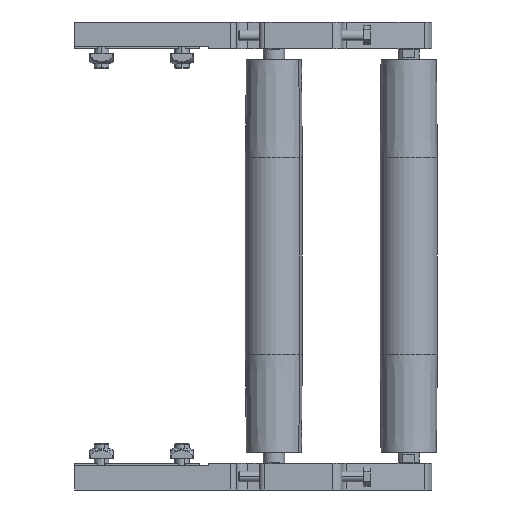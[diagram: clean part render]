
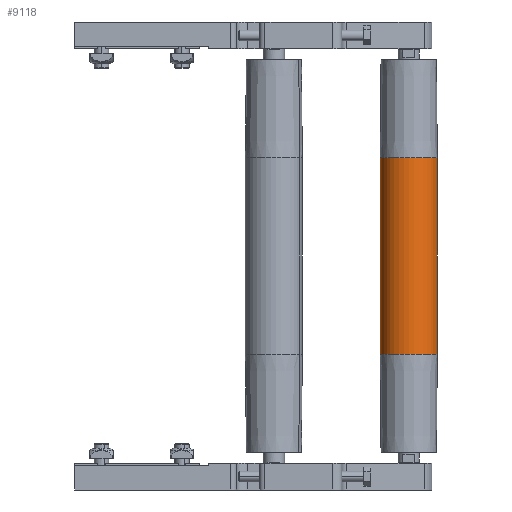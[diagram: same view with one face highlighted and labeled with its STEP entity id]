
A CAD part, front view. The second image highlights one B-rep face of the part: STEP entity #9118.
In plain terms, the highlighted cylindrical face has radius 16 mm (diameter 32 mm), a partial arc.
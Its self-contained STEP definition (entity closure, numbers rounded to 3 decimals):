
#232 = DIRECTION ( 'NONE',  ( 0., 0., -1. ) ) ;
#240 = EDGE_CURVE ( 'NONE', #10572, #1767, #2154, .T. ) ;
#694 = CYLINDRICAL_SURFACE ( 'NONE', #4300, 16. ) ;
#746 = CARTESIAN_POINT ( 'NONE',  ( -16., 0., 55. ) ) ;
#1044 = CIRCLE ( 'NONE', #4980, 16. ) ;
#1370 = ORIENTED_EDGE ( 'NONE', *, *, #5690, .F. ) ;
#1767 = VERTEX_POINT ( 'NONE', #6927 ) ;
#2154 = CIRCLE ( 'NONE', #6162, 16. ) ;
#3234 = DIRECTION ( 'NONE',  ( 0., 0., 1. ) ) ;
#4139 = CARTESIAN_POINT ( 'NONE',  ( -16., 0., -55. ) ) ;
#4300 = AXIS2_PLACEMENT_3D ( 'NONE', #6183, #15347, #16645 ) ;
#4980 = AXIS2_PLACEMENT_3D ( 'NONE', #16402, #12423, #12530 ) ;
#4985 = ORIENTED_EDGE ( 'NONE', *, *, #14333, .T. ) ;
#5690 = EDGE_CURVE ( 'NONE', #1767, #6594, #16507, .T. ) ;
#6162 = AXIS2_PLACEMENT_3D ( 'NONE', #11069, #3234, #12383 ) ;
#6183 = CARTESIAN_POINT ( 'NONE',  ( 0., 0., 110. ) ) ;
#6594 = VERTEX_POINT ( 'NONE', #7109 ) ;
#6927 = CARTESIAN_POINT ( 'NONE',  ( 16., 0., 55. ) ) ;
#7109 = CARTESIAN_POINT ( 'NONE',  ( 16., 0., -55. ) ) ;
#7647 = VECTOR ( 'NONE', #9947, 1000. ) ;
#8010 = CARTESIAN_POINT ( 'NONE',  ( 16., 0., 110. ) ) ;
#8051 = LINE ( 'NONE', #16460, #7647 ) ;
#8295 = VECTOR ( 'NONE', #232, 1000. ) ;
#9118 = ADVANCED_FACE ( 'NONE', ( #10078 ), #694, .T. ) ;
#9947 = DIRECTION ( 'NONE',  ( 0., 0., -1. ) ) ;
#10078 = FACE_OUTER_BOUND ( 'NONE', #15278, .T. ) ;
#10572 = VERTEX_POINT ( 'NONE', #746 ) ;
#11069 = CARTESIAN_POINT ( 'NONE',  ( 0., 0., 55. ) ) ;
#11400 = EDGE_CURVE ( 'NONE', #13450, #6594, #1044, .T. ) ;
#12383 = DIRECTION ( 'NONE',  ( 1., 0., 0. ) ) ;
#12423 = DIRECTION ( 'NONE',  ( 0., 0., 1. ) ) ;
#12530 = DIRECTION ( 'NONE',  ( 1., 0., 0. ) ) ;
#13450 = VERTEX_POINT ( 'NONE', #4139 ) ;
#14333 = EDGE_CURVE ( 'NONE', #10572, #13450, #8051, .T. ) ;
#15278 = EDGE_LOOP ( 'NONE', ( #1370, #16109, #4985, #15341 ) ) ;
#15341 = ORIENTED_EDGE ( 'NONE', *, *, #11400, .T. ) ;
#15347 = DIRECTION ( 'NONE',  ( 0., 0., -1. ) ) ;
#16109 = ORIENTED_EDGE ( 'NONE', *, *, #240, .F. ) ;
#16402 = CARTESIAN_POINT ( 'NONE',  ( 0., 0., -55. ) ) ;
#16460 = CARTESIAN_POINT ( 'NONE',  ( -16., 0., 110. ) ) ;
#16507 = LINE ( 'NONE', #8010, #8295 ) ;
#16645 = DIRECTION ( 'NONE',  ( -1., 0., 0. ) ) ;
